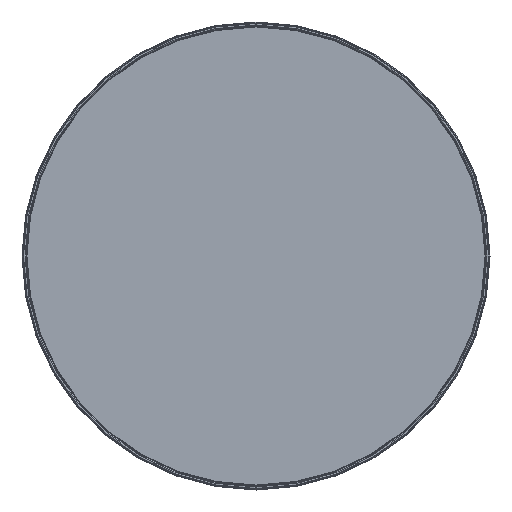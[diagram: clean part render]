
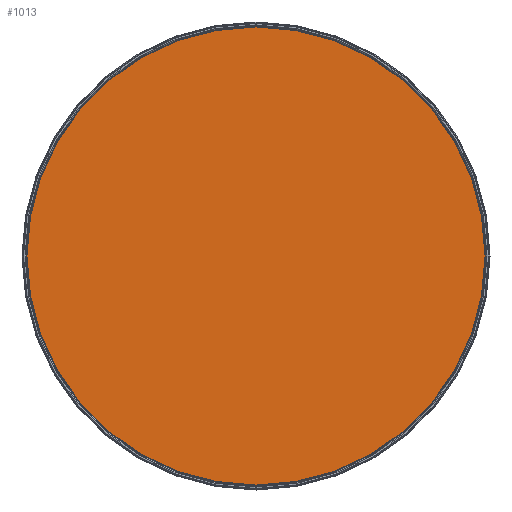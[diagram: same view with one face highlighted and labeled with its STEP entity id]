
A CAD part, front view. The second image highlights one B-rep face of the part: STEP entity #1013.
In plain terms, the highlighted planar face has unit normal (0, -1, 0).
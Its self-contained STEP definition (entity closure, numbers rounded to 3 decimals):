
#297 = CARTESIAN_POINT ( 'NONE',  ( 0., -2.4, 0. ) ) ;
#510 = CARTESIAN_POINT ( 'NONE',  ( 0., -2.4, 297. ) ) ;
#514 = CARTESIAN_POINT ( 'NONE',  ( 0., -2.4, 0. ) ) ;
#625 = DIRECTION ( 'NONE',  ( 0., 0., 1. ) ) ;
#803 = DIRECTION ( 'NONE',  ( 0., 0., -1. ) ) ;
#1013 = ADVANCED_FACE ( 'NONE', ( #4313 ), #3865, .T. ) ;
#1037 = AXIS2_PLACEMENT_3D ( 'NONE', #514, #4453, #803 ) ;
#1437 = VERTEX_POINT ( 'NONE', #510 ) ;
#1727 = DIRECTION ( 'NONE',  ( 0., 1., 0. ) ) ;
#2051 = CARTESIAN_POINT ( 'NONE',  ( 0., -2.4, 0. ) ) ;
#2077 = AXIS2_PLACEMENT_3D ( 'NONE', #2051, #1727, #3559 ) ;
#2512 = DIRECTION ( 'NONE',  ( 0., 1., 0. ) ) ;
#2919 = EDGE_CURVE ( 'NONE', #4742, #1437, #3082, .T. ) ;
#3082 = CIRCLE ( 'NONE', #2077, 297. ) ;
#3136 = EDGE_CURVE ( 'NONE', #1437, #4742, #4481, .T. ) ;
#3559 = DIRECTION ( 'NONE',  ( 0., 0., 1. ) ) ;
#3666 = ORIENTED_EDGE ( 'NONE', *, *, #3136, .F. ) ;
#3865 = PLANE ( 'NONE',  #1037 ) ;
#4013 = CARTESIAN_POINT ( 'NONE',  ( 0., -2.4, -297. ) ) ;
#4095 = AXIS2_PLACEMENT_3D ( 'NONE', #297, #2512, #625 ) ;
#4223 = ORIENTED_EDGE ( 'NONE', *, *, #2919, .F. ) ;
#4313 = FACE_OUTER_BOUND ( 'NONE', #4362, .T. ) ;
#4362 = EDGE_LOOP ( 'NONE', ( #3666, #4223 ) ) ;
#4453 = DIRECTION ( 'NONE',  ( 0., -1., 0. ) ) ;
#4481 = CIRCLE ( 'NONE', #4095, 297. ) ;
#4742 = VERTEX_POINT ( 'NONE', #4013 ) ;
